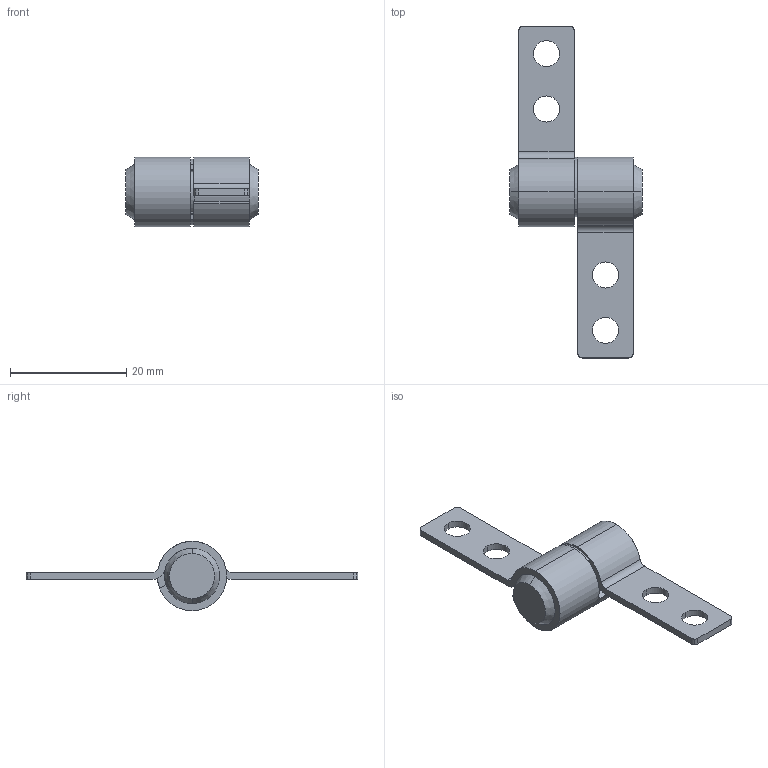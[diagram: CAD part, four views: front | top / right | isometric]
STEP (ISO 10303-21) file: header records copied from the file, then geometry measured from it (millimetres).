
FILE_DESCRIPTION(('STEP AP214'),'1');
FILE_NAME('C:/Users/HAN/Desktop/3000-0011-HNG R Rev 0_0.stp','2012-12-04T03:00:09',(' '),(' '),'Spatial InterOp 3D',' ',' ');
FILE_SCHEMA(('automotive_design'));
Length unit declared in the file: inch
Products named in the file (4): 3000-0011-SHA Rev 0_0; 3000-0011-BND Rev 0_0; Snap Ring 2000-37
Bounding box: 22.73 x 57.15 x 11.93 mm (x, y, z)
Volume: 2764.2 mm3; surface area: 3231.9 mm2
Topology: 4 solids, 4 shells, 76 faces, 194 edges, 128 vertices
Faces by surface type: cylinder 48, plane 24, cone 4
Entity records: 3031 total; most frequent: DIRECTION 454, CARTESIAN_POINT 402, ORIENTED_EDGE 388, EDGE_CURVE 194, AXIS2_PLACEMENT_3D 180, VERTEX_POINT 128, CIRCLE 100, LINE 94
